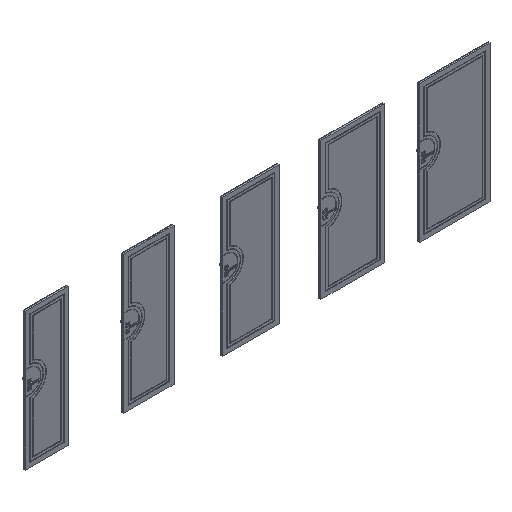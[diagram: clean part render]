
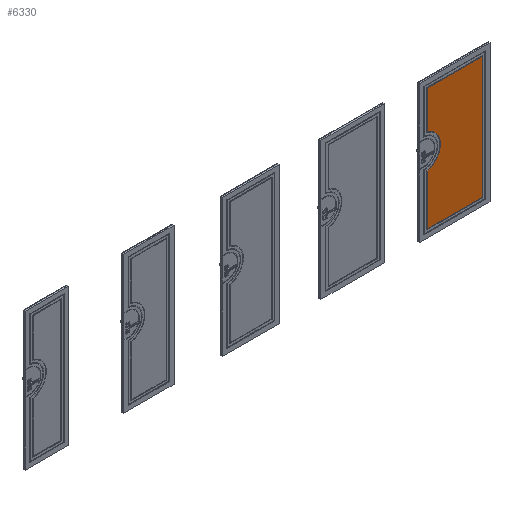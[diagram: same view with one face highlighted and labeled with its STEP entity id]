
A CAD part, isometric view. The second image highlights one B-rep face of the part: STEP entity #6330.
In plain terms, the highlighted planar face has unit normal (0, -1, 0).
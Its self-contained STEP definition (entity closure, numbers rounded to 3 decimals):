
#3995=CIRCLE('',#37890,257.15);
#6330=ADVANCED_FACE('',(#9140),#7260,.F.);
#7260=PLANE('',#37971);
#9140=FACE_OUTER_BOUND('',#11390,.T.);
#11390=EDGE_LOOP('',(#19975,#19976,#19977,#19978,#19979,#19980));
#19975=ORIENTED_EDGE('',*,*,#28697,.T.);
#19976=ORIENTED_EDGE('',*,*,#28698,.T.);
#19977=ORIENTED_EDGE('',*,*,#28688,.T.);
#19978=ORIENTED_EDGE('',*,*,#28691,.T.);
#19979=ORIENTED_EDGE('',*,*,#28693,.T.);
#19980=ORIENTED_EDGE('',*,*,#28695,.T.);
#24129=VERTEX_POINT('',#62790);
#24130=VERTEX_POINT('',#62792);
#24131=VERTEX_POINT('',#62799);
#24132=VERTEX_POINT('',#62806);
#24133=VERTEX_POINT('',#62810);
#24134=VERTEX_POINT('',#62814);
#28688=EDGE_CURVE('',#24130,#24129,#31626,.T.);
#28691=EDGE_CURVE('',#24129,#24131,#31628,.T.);
#28693=EDGE_CURVE('',#24131,#24132,#3995,.T.);
#28695=EDGE_CURVE('',#24132,#24133,#31630,.T.);
#28697=EDGE_CURVE('',#24133,#24134,#31632,.T.);
#28698=EDGE_CURVE('',#24134,#24130,#31633,.T.);
#31626=LINE('',#62791,#34066);
#31628=LINE('',#62800,#34068);
#31630=LINE('',#62811,#34070);
#31632=LINE('',#62815,#34072);
#31633=LINE('',#62817,#34073);
#34066=VECTOR('',#47211,1.);
#34068=VECTOR('',#47215,1.);
#34070=VECTOR('',#47223,1.);
#34072=VECTOR('',#47227,1.);
#34073=VECTOR('',#47230,1.);
#37890=AXIS2_PLACEMENT_3D('',#62807,#47218,#47219);
#37971=AXIS2_PLACEMENT_3D('',#63054,#47412,#47413);
#47211=DIRECTION('',(-1.,0.,0.));
#47215=DIRECTION('',(0.,0.,-1.));
#47218=DIRECTION('',(0.,1.,0.));
#47219=DIRECTION('',(0.229,0.,0.973));
#47223=DIRECTION('',(0.,0.,-1.));
#47227=DIRECTION('',(1.,0.,0.));
#47230=DIRECTION('',(0.,0.,1.));
#47412=DIRECTION('',(0.,1.,0.));
#47413=DIRECTION('',(-1.,0.,0.));
#62790=CARTESIAN_POINT('',(5594.65,-39.3,1912.85));
#62791=CARTESIAN_POINT('',(6409.5,-39.3,1912.85));
#62792=CARTESIAN_POINT('',(6405.35,-39.3,1912.85));
#62799=CARTESIAN_POINT('',(5594.65,-39.3,1353.527));
#62800=CARTESIAN_POINT('',(5594.65,-39.3,1917.));
#62806=CARTESIAN_POINT('',(5594.65,-39.3,854.473));
#62807=CARTESIAN_POINT('',(5532.5,-39.3,1104.));
#62810=CARTESIAN_POINT('',(5594.65,-39.3,117.15));
#62811=CARTESIAN_POINT('',(5594.65,-39.3,857.738));
#62814=CARTESIAN_POINT('',(6405.35,-39.3,117.15));
#62815=CARTESIAN_POINT('',(5590.5,-39.3,117.15));
#62817=CARTESIAN_POINT('',(6405.35,-39.3,113.));
#63054=CARTESIAN_POINT('',(5680.5,-39.3,2027.));
